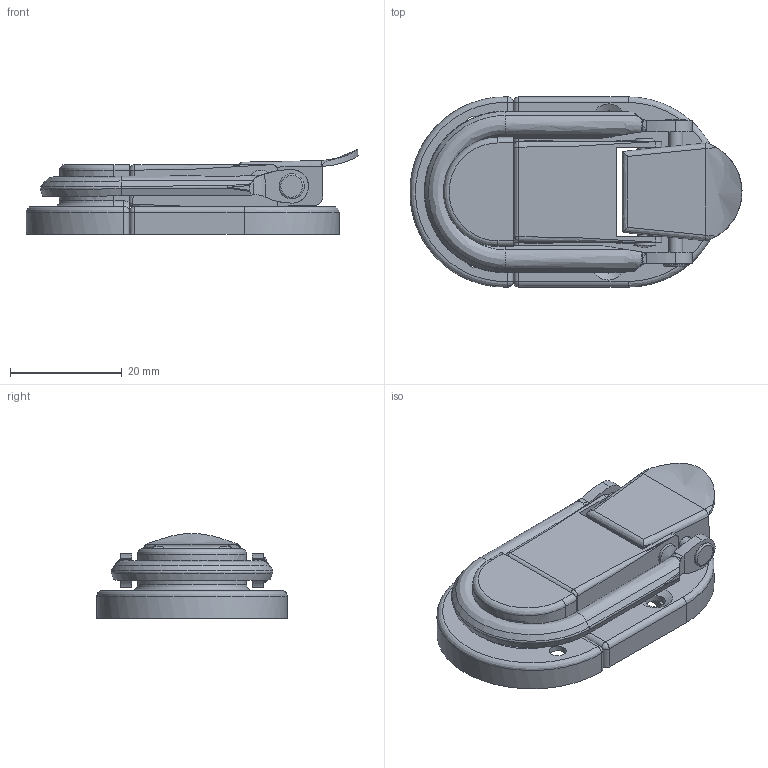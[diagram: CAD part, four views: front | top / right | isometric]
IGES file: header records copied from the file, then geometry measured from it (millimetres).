
Global section: file name: DR_C-M28; native system: Autodesk Inventor 2015; preprocessor: unknown; author: Administrator; date: 20180301.143239; units: millimetre
Bounding box: 59.36 x 34 x 15.2 mm (x, y, z)
Volume: 5362.1 mm3; surface area: 10764.5 mm2
Topology: 6 solids, 6 shells, 321 faces, 831 edges, 518 vertices
Faces by surface type: bspline 321
